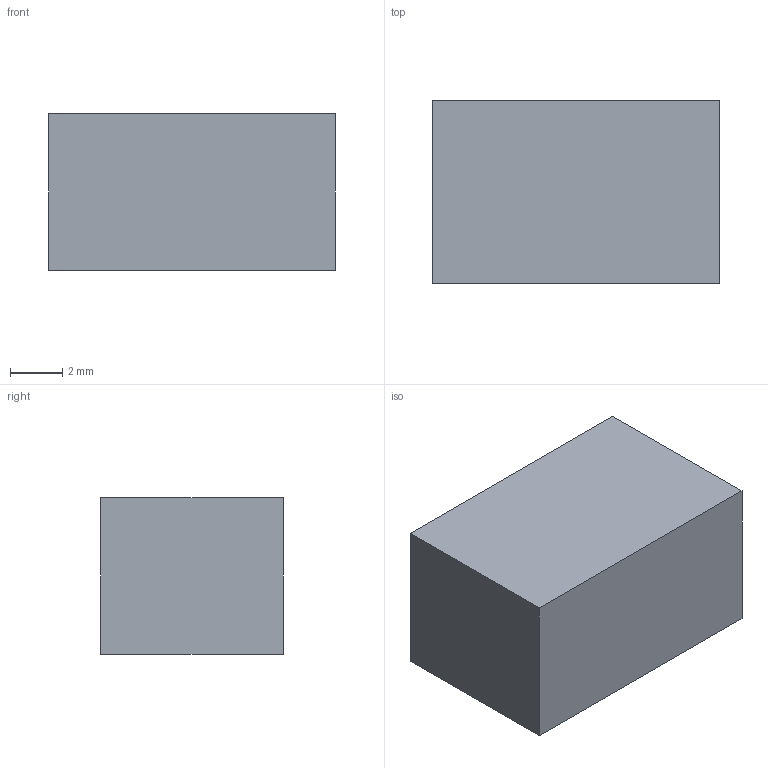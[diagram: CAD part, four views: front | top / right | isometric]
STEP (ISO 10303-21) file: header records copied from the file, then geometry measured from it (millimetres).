
FILE_DESCRIPTION(('Open CASCADE Model'),'2;1');
FILE_NAME('Open CASCADE Shape Model','2026-08-28T00:57:55',('Author'),( 'Open CASCADE'),'Open CASCADE STEP processor 7.8','Open CASCADE 7.8' ,'Unknown');
FILE_SCHEMA(('AUTOMOTIVE_DESIGN { 1 0 10303 214 1 1 1 1 }'));
Length unit declared in the file: millimetre
Products named in the file (1): Open CASCADE STEP translator 7.8 10
Bounding box: 11 x 7 x 6 mm (x, y, z)
Volume: 462 mm3; surface area: 370 mm2
Topology: 1 solids, 1 shells, 6 faces, 12 edges, 8 vertices
Faces by surface type: plane 6
Entity records: 322 total; most frequent: CARTESIAN_POINT 51, DIRECTION 50, LINE 36, VECTOR 36, ORIENTED_EDGE 24, PCURVE 24, DEFINITIONAL_REPRESENTATION 24, EDGE_CURVE 12
